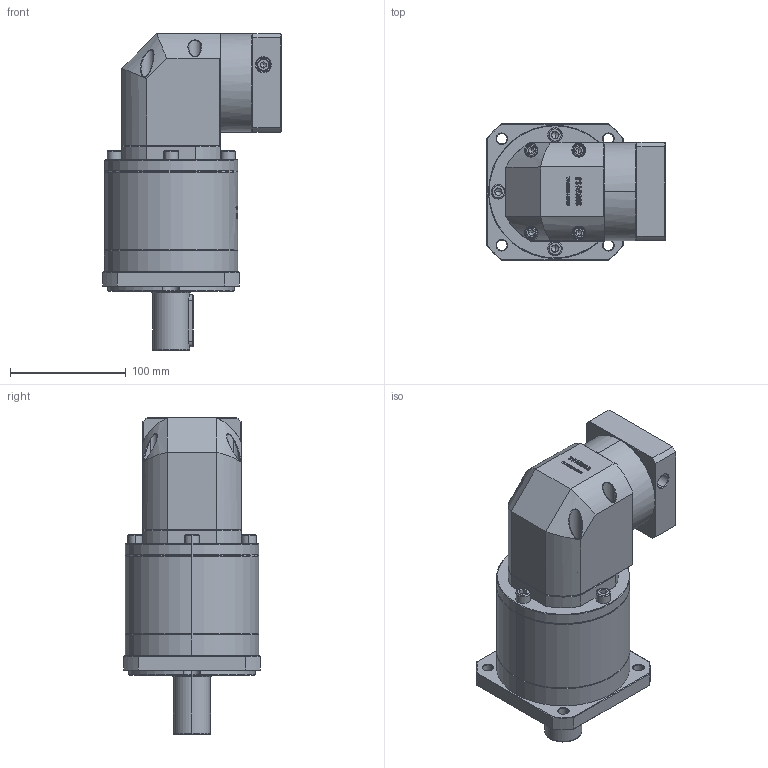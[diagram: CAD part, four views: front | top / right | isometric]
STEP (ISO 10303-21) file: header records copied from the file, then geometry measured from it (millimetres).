
FILE_DESCRIPTION (( 'STEP AP214' ), '1' );
FILE_NAME ('ZFR120A-D32-L3-16-80-100-M6.step', '2023-03-08T05:49:34', ( '' ), ( '' ), 'SwSTEP 2.0', 'SolidWorks 2016', '' );
FILE_SCHEMA (( 'AUTOMOTIVE_DESIGN' ));
Length unit declared in the file: millimetre
Products named in the file (1): ZFR120A-D32-L3-16-80-100-M6
Bounding box: 154.1 x 118 x 273.5 mm (x, y, z)
Volume: 2165383.9 mm3; surface area: 182174.7 mm2
Topology: 6 solids, 6 shells, 3003 faces, 7970 edges, 5115 vertices
Faces by surface type: plane 1576, bspline 625, cylinder 455, cone 333, torus 14
Entity records: 163946 total; most frequent: CARTESIAN_POINT 62344, ORIENTED_EDGE 15848, DIRECTION 11689, EDGE_CURVE 7924, VERTEX_POINT 5115, VECTOR 4923, LINE 4923, AXIS2_PLACEMENT_3D 3383
